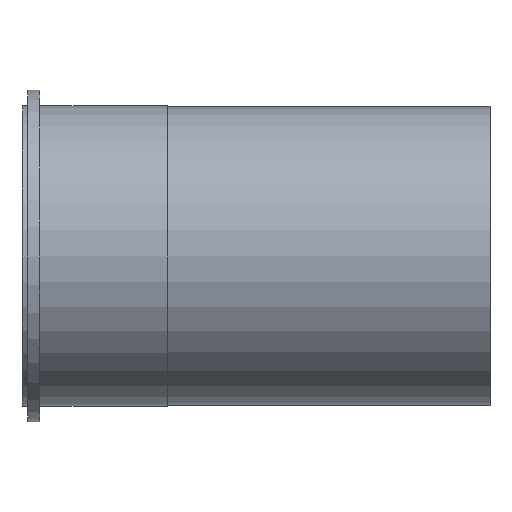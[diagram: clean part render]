
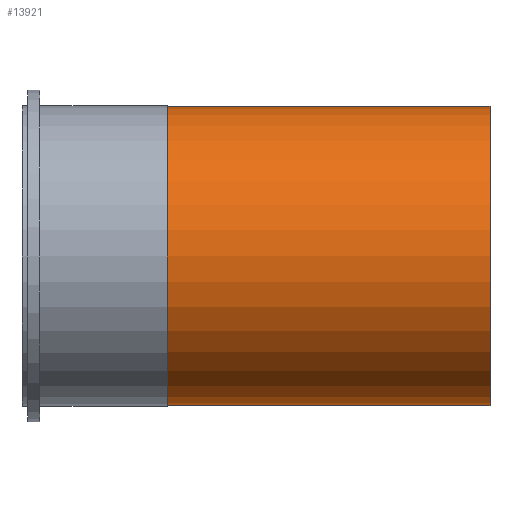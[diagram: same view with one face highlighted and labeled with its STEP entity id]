
A CAD part, front view. The second image highlights one B-rep face of the part: STEP entity #13921.
In plain terms, the highlighted cylindrical face has radius 79.883 mm (diameter 159.766 mm), a full revolution.
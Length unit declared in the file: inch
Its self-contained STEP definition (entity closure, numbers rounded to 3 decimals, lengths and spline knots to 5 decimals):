
#13890=CARTESIAN_POINT('',(3.06,3.145,0.0));
#13891=VERTEX_POINT('',#13890);
#13892=CARTESIAN_POINT('',(3.06,0.0,0.0));
#13893=DIRECTION('',(1.0,0.0,0.0));
#13894=DIRECTION('',(0.0,1.0,0.0));
#13895=AXIS2_PLACEMENT_3D('',#13892,#13893,#13894);
#13896=CIRCLE('',#13895,3.145);
#13897=EDGE_CURVE('',#13891,#13891,#13896,.T.);
#13902=CARTESIAN_POINT('',(6.45126,0.0,0.0));
#13903=DIRECTION('',(1.0,0.0,0.0));
#13904=DIRECTION('',(0.0,1.0,0.0));
#13905=AXIS2_PLACEMENT_3D('',#13902,#13903,#13904);
#13906=CYLINDRICAL_SURFACE('',#13905,3.145);
#13907=CARTESIAN_POINT('',(9.84252,3.145,0.0));
#13908=VERTEX_POINT('',#13907);
#13909=CARTESIAN_POINT('',(9.84252,0.0,0.0));
#13910=DIRECTION('',(1.0,0.0,0.0));
#13911=DIRECTION('',(0.0,1.0,0.0));
#13912=AXIS2_PLACEMENT_3D('',#13909,#13910,#13911);
#13913=CIRCLE('',#13912,3.145);
#13914=EDGE_CURVE('',#13908,#13908,#13913,.T.);
#13915=ORIENTED_EDGE('',*,*,#13914,.F.);
#13916=EDGE_LOOP('',(#13915));
#13917=FACE_OUTER_BOUND('',#13916,.T.);
#13918=ORIENTED_EDGE('',*,*,#13897,.T.);
#13919=EDGE_LOOP('',(#13918));
#13920=FACE_BOUND('',#13919,.T.);
#13921=ADVANCED_FACE('',(#13917,#13920),#13906,.T.);
